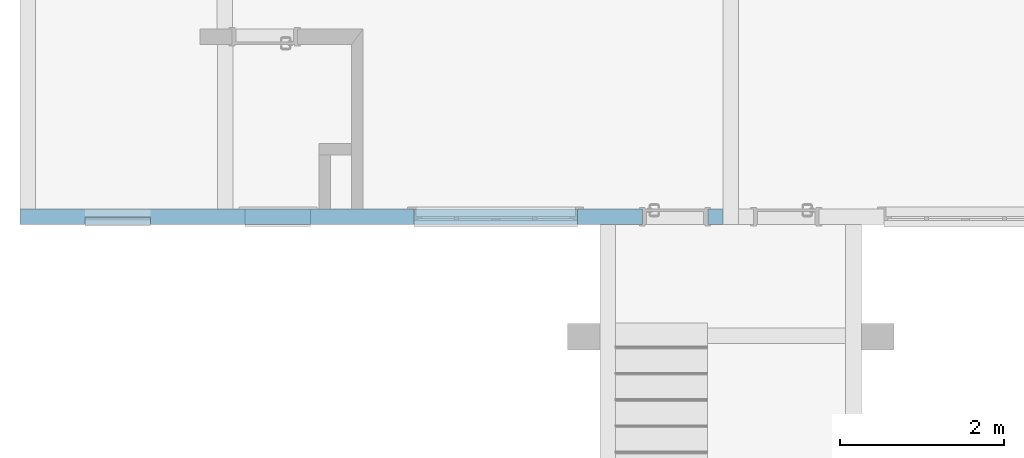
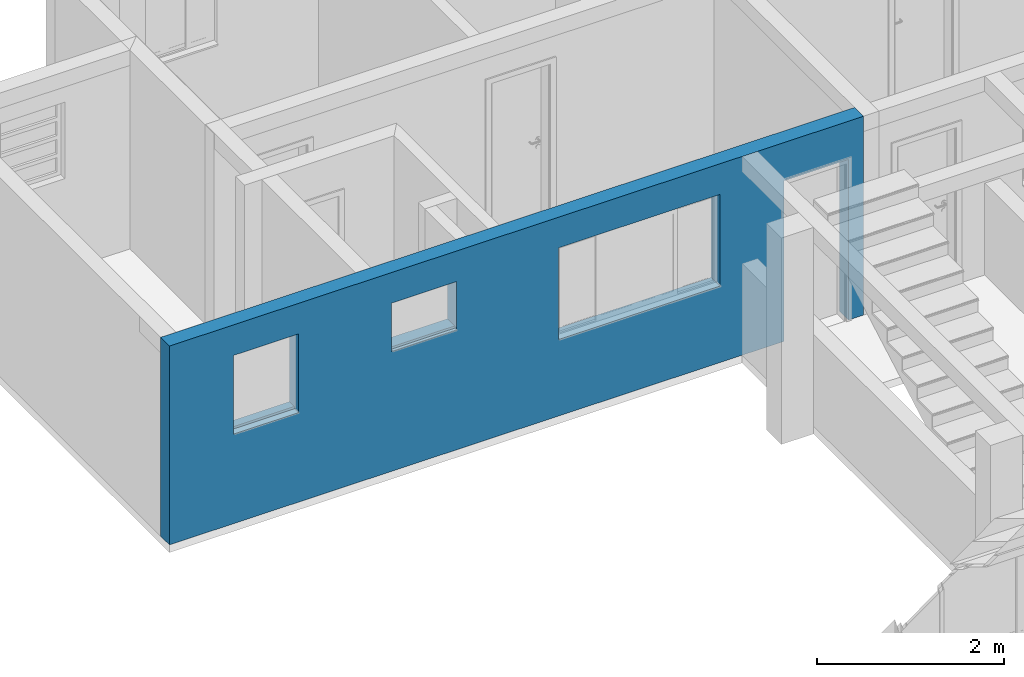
# One storey, part 23 of 43: 1 wall, 4 openings.
"""IFC2X3 building model written with IfcOpenShell, lengths in millimetres."""

from ifc_helpers import new_model, entity, si_unit, converted_unit, derived_unit, money_unit, direction, frame, origin_with_axes, origin_2d_with_axis, place, context, subcontext, project, spatial, polyline, rectangle, outline, extrude, material, layer, layer_set, layer_usage, type_object, element, save


model = new_model("IFC2X3")

# Units and contexts
model_context = context("Model", 3, precision=0.01, world=origin_with_axes(), true_north=direction((0.0, 1.0)))
body_context = subcontext(model_context, "Body", "Model", "MODEL_VIEW")
ifc_project = project(units=[si_unit("LENGTHUNIT", "METRE", prefix="MILLI"), si_unit("AREAUNIT", "SQUARE_METRE"), si_unit("VOLUMEUNIT", "CUBIC_METRE"), converted_unit("PLANEANGLEUNIT", "DEGREE", entity("IfcPlaneAngleMeasure", 0.0174532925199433), si_unit("PLANEANGLEUNIT", "RADIAN"), dimensions=[0, 0, 0, 0, 0, 0, 0]), money_unit("USD"), converted_unit("TIMEUNIT", "Year", entity("IfcTimeMeasure", 31557600.0), si_unit("TIMEUNIT", "SECOND"), dimensions=[0, 0, 1, 0, 0, 0, 0]), si_unit("MASSUNIT", "GRAM", prefix="KILO"), si_unit("THERMODYNAMICTEMPERATUREUNIT", "DEGREE_CELSIUS"), si_unit("LUMINOUSINTENSITYUNIT", "LUMEN"), si_unit("ENERGYUNIT", "JOULE", prefix="MEGA"), derived_unit("THERMALCONDUCTANCEUNIT", [(si_unit("POWERUNIT", "WATT"), 1), (si_unit("LENGTHUNIT", "METRE"), -1), (si_unit("THERMODYNAMICTEMPERATUREUNIT", "KELVIN"), -1)]), derived_unit("SPECIFICHEATCAPACITYUNIT", [(si_unit("ENERGYUNIT", "JOULE"), 1), (si_unit("MASSUNIT", "GRAM", prefix="KILO"), -1), (si_unit("THERMODYNAMICTEMPERATUREUNIT", "KELVIN"), -1)]), derived_unit("MASSDENSITYUNIT", [(si_unit("MASSUNIT", "GRAM", prefix="KILO"), 1), (si_unit("VOLUMEUNIT", "CUBIC_METRE"), -1)])], contexts=[model_context])

# Site, building, storey
site_placement = place(None, origin_with_axes())
site = spatial("IfcSite", under=ifc_project, at=site_placement, Name="Local", CompositionType="ELEMENT")
building_placement = place(site_placement, origin_with_axes())
building = spatial("IfcBuilding", under=site, at=building_placement, Name="Construção", CompositionType="ELEMENT")
storey_placement = place(building_placement, origin_with_axes())
storey = spatial("IfcBuildingStorey", under=building, at=storey_placement, Name="Pavimento Tipo", CompositionType="ELEMENT", Elevation=0.0)

# Wall, openings
ifc_material = material(Name="Concreto - Estrutural")
ifc_layer = layer(ifc_material, 190.0, ventilated="UNKNOWN")
ifc_layer_set = layer_set([ifc_layer], Name="Concreto - Estrutural 190")
ifc_layer_usage = layer_usage(ifc_layer_set, "AXIS2", "NEGATIVE", 0.0)
wall_type = type_object("IfcWallType", Name="Concreto - Estrutural 190", PredefinedType="NOTDEFINED")
wall_placement = place(storey_placement, frame((55117.434598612, 5832.461520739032, 0.0), z_axis=(0.0, 0.0, 1.0), x_axis=(1.0, 0.0, 0.0)))
wall = element("IfcWallStandardCase", 1, at=wall_placement, inside=storey, type_object=wall_type, material=ifc_layer_usage, Name="Apartamento 2 - Parede-001", context=body_context, shape_type="SweptSolid", body=[
    extrude(outline(polyline([(0.0, -190.0000000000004), (8584.765133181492, -190.0000000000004), (8584.765133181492, 0.0), (0.0, 0.0), (0.0, -190.0000000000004)])), origin_with_axes(), (0.0, 0.0, 1.0), 2600.0),
])
opening_1_placement = place(wall_placement, frame((1195.000000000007, 0.0, 1200.0), z_axis=(0.0, 0.0, 1.0), x_axis=(1.0, 0.0, 0.0)))
element("IfcOpeningElement", 2, at=opening_1_placement, cuts=wall, Name="Apartamento 2 - J03", context=body_context, shape_type="SweptSolid", body=[
    extrude(rectangle(XDim=799.9999999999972, YDim=1000.0, at=origin_2d_with_axis()), frame((0.0, -140.0000000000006, 500.0), z_axis=(0.0, -1.0, 0.0), x_axis=(-1.0, 0.0, 0.0)), (0.0, 0.0, -1.0), 330.0),
    extrude(rectangle(XDim=799.9999999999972, YDim=1000.0, at=origin_2d_with_axis()), frame((0.0, -140.0000000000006, 500.0), z_axis=(0.0, 1.0, 0.0), x_axis=(-1.0, 0.0, 0.0)), (0.0, 0.0, -1.0), 240.0),
    extrude(rectangle(XDim=799.9999999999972, YDim=30.00000000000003, at=origin_2d_with_axis()), frame((0.0, -105.0000000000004, -15.00000000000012), z_axis=(0.0, 1.0, 0.0), x_axis=(-1.0, 0.0, 0.0)), (0.0, 0.0, -1.0), 225.0),
])
opening_2_placement = place(wall_placement, frame((3149.999999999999, 0.0, 1600.0), z_axis=(0.0, 0.0, 1.0), x_axis=(1.0, 0.0, 0.0)))
element("IfcOpeningElement", 3, at=opening_2_placement, cuts=wall, Name="Apartamento 2 - J02", context=body_context, shape_type="SweptSolid", body=[
    extrude(rectangle(XDim=799.9999999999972, YDim=600.0000000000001, at=origin_2d_with_axis()), frame((0.0, 190.0000000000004, 300.0000000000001), z_axis=(0.0, -1.0, 0.0), x_axis=(-1.0, 0.0, 0.0)), (0.0, 0.0, 1.0), 570.0000000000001),
    extrude(rectangle(XDim=799.9999999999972, YDim=30.00000000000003, at=origin_2d_with_axis()), frame((0.0, -155.0000000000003, -15.00000000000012), z_axis=(0.0, 1.0, 0.0), x_axis=(-1.0, 0.0, 0.0)), (0.0, 0.0, -1.0), 225.0),
    extrude(rectangle(XDim=950.0000000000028, YDim=750.0, at=origin_2d_with_axis()), frame((0.0, 0.0, 300.0000000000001), z_axis=(0.0, -1.0, 0.0), x_axis=(-1.0, 0.0, 0.0)), (0.0, 0.0, -1.0), 190.0),
])
opening_3_placement = place(wall_placement, frame((5810.000000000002, 0.0, 1000.0), z_axis=(0.0, 0.0, 1.0), x_axis=(1.0, 0.0, 0.0)))
element("IfcOpeningElement", 4, at=opening_3_placement, cuts=wall, Name="Apartamento 2 - J01", context=body_context, shape_type="SweptSolid", body=[
    extrude(rectangle(XDim=2000.0, YDim=1200.0, at=origin_2d_with_axis()), frame((0.0, -140.0000000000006, 600.0000000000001), z_axis=(0.0, 1.0, 0.0), x_axis=(1.0, 0.0, 0.0)), (0.0, 0.0, 1.0), 330.0),
    extrude(rectangle(XDim=2000.0, YDim=1200.0, at=origin_2d_with_axis()), frame((0.0, -140.0000000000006, 600.0000000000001), z_axis=(0.0, -1.0, 0.0), x_axis=(1.0, 0.0, 0.0)), (0.0, 0.0, 1.0), 240.0),
    extrude(rectangle(XDim=2150.000000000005, YDim=1350.0, at=origin_2d_with_axis()), frame((0.0, 0.0, 599.9999999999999), z_axis=(0.0, 1.0, 0.0), x_axis=(1.0, 0.0, 0.0)), (0.0, 0.0, 1.0), 240.0),
])
opening_4_placement = place(wall_placement, frame((8000.000000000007, 0.0, 0.0), z_axis=(0.0, 0.0, 1.0), x_axis=(1.0, 0.0, 0.0)))
element("IfcOpeningElement", 5, at=opening_4_placement, cuts=wall, Name="Apartamento 2 - P01", context=body_context, shape_type="SweptSolid", body=[
    extrude(rectangle(XDim=799.9999999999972, YDim=2100.0, at=origin_2d_with_axis()), frame((0.0, 190.0000000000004, 1050.0), z_axis=(0.0, -1.0, 0.0), x_axis=(1.0, 0.0, 0.0)), (0.0, 0.0, 1.0), 570.0000000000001),
    extrude(rectangle(XDim=870.0000000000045, YDim=2135.0, at=origin_2d_with_axis()), frame((0.0, 0.0, 1067.5), z_axis=(0.0, -1.0, 0.0), x_axis=(1.0, 0.0, 0.0)), (0.0, 0.0, -1.0), 190.0),
    extrude(rectangle(XDim=870.0000000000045, YDim=2135.0, at=origin_2d_with_axis()), frame((0.0, -189.9999999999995, 1067.5), z_axis=(0.0, 1.0, 0.0), x_axis=(1.0, 0.0, 0.0)), (0.0, 0.0, -1.0), 190.0),
])

save(model, "model.ifc")
